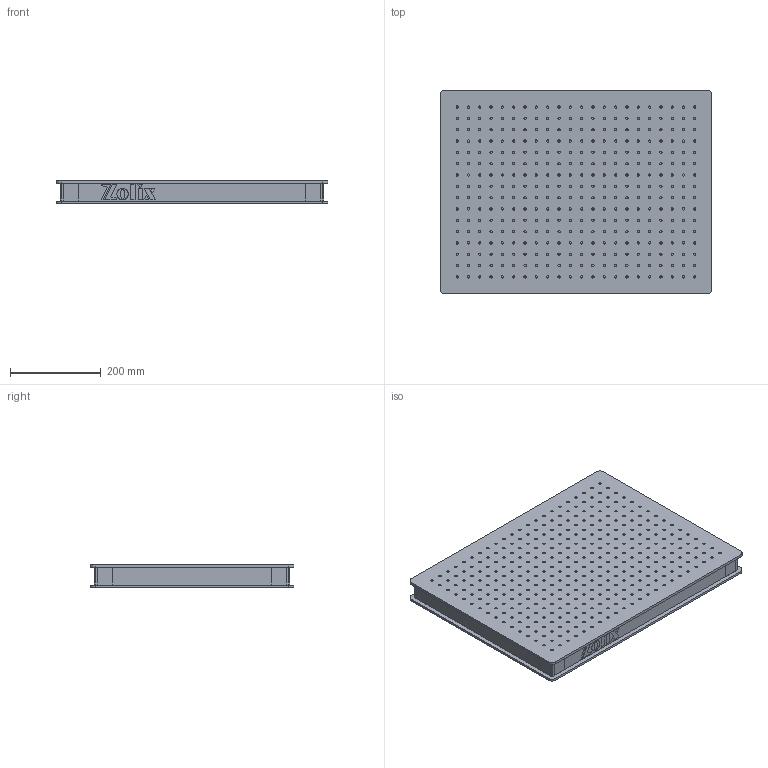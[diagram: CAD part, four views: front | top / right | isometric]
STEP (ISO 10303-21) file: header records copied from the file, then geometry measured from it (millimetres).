
FILE_DESCRIPTION (( 'STEP AP203' ), '1' );
FILE_NAME ('OTBB456-50 怢醱.STEP', '2019-05-09T08:31:10', ( 'User' ), ( 'User' ), 'SwSTEP 2.0', 'SolidWorks 2016', '' );
FILE_SCHEMA (( 'CONFIG_CONTROL_DESIGN' ));
Length unit declared in the file: millimetre
Products named in the file (1): OTBB456-50 怢醱
Bounding box: 600 x 450 x 50 mm (x, y, z)
Surface area: 1214975.8 mm2 (no closed solid volume)
Topology: 0 solids, 30 shells, 778 faces, 2550 edges, 1804 vertices
Faces by surface type: cylinder 716, plane 62
Entity records: 30272 total; most frequent: DIRECTION 5540, CARTESIAN_POINT 5133, ORIENTED_EDGE 4736, EDGE_CURVE 2550, AXIS2_PLACEMENT_3D 2211, VERTEX_POINT 1804, EDGE_LOOP 1482, CIRCLE 1432
